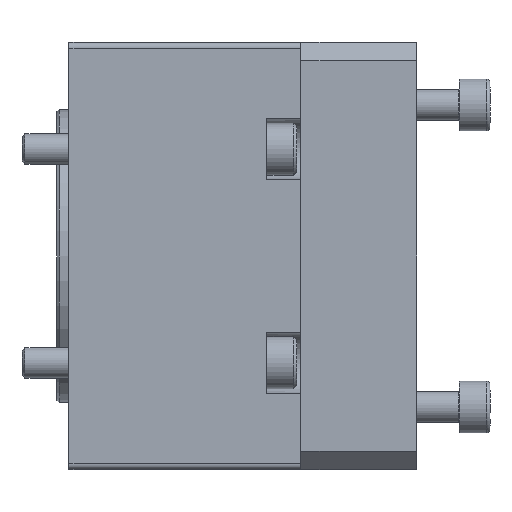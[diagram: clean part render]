
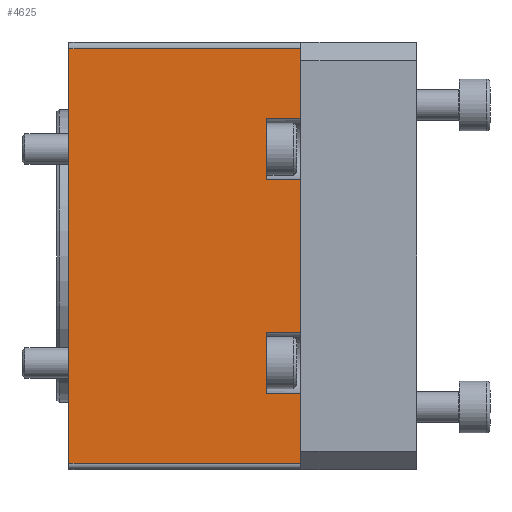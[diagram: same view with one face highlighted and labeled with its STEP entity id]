
A CAD part, front view. The second image highlights one B-rep face of the part: STEP entity #4625.
In plain terms, the highlighted planar face has unit normal (0, -1, 0) as drawn and (0, 1, 0) by its records, which use the part's own axes.
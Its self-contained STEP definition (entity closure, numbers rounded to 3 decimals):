
#766=FACE_OUTER_BOUND('',#1087,.T.);
#1087=EDGE_LOOP('',(#3367,#3368,#3369,#3370,#3371,#3372,#3373,#3374,#3375,
#3376,#3377,#3378));
#1457=LINE('',#7011,#1769);
#1459=LINE('',#7017,#1771);
#1465=LINE('',#7029,#1777);
#1467=LINE('',#7035,#1779);
#1477=LINE('',#7091,#1789);
#1480=LINE('',#7118,#1792);
#1481=LINE('',#7127,#1793);
#1484=LINE('',#7140,#1796);
#1492=LINE('',#7200,#1804);
#1496=LINE('',#7263,#1808);
#1497=LINE('',#7267,#1809);
#1498=LINE('',#7268,#1810);
#1769=VECTOR('',#5495,5.7);
#1771=VECTOR('',#5499,5.7);
#1777=VECTOR('',#5507,5.7);
#1779=VECTOR('',#5511,5.7);
#1789=VECTOR('',#5547,11.5);
#1792=VECTOR('',#5566,25.);
#1793=VECTOR('',#5577,11.5);
#1796=VECTOR('',#5590,10.);
#1804=VECTOR('',#5656,10.);
#1808=VECTOR('',#5738,38.);
#1809=VECTOR('',#5743,38.);
#1810=VECTOR('',#5744,68.);
#2078=VERTEX_POINT('',#7004);
#2081=VERTEX_POINT('',#7009);
#2083=VERTEX_POINT('',#7014);
#2084=VERTEX_POINT('',#7016);
#2086=VERTEX_POINT('',#7022);
#2089=VERTEX_POINT('',#7027);
#2091=VERTEX_POINT('',#7032);
#2092=VERTEX_POINT('',#7034);
#2105=VERTEX_POINT('',#7089);
#2114=VERTEX_POINT('',#7126);
#2152=VERTEX_POINT('',#7262);
#2153=VERTEX_POINT('',#7266);
#2539=EDGE_CURVE('',#2078,#2081,#1457,.T.);
#2541=EDGE_CURVE('',#2084,#2083,#1459,.T.);
#2547=EDGE_CURVE('',#2086,#2089,#1465,.T.);
#2549=EDGE_CURVE('',#2092,#2091,#1467,.T.);
#2570=EDGE_CURVE('',#2081,#2105,#1477,.T.);
#2580=EDGE_CURVE('',#2089,#2084,#1480,.T.);
#2585=EDGE_CURVE('',#2114,#2092,#1481,.T.);
#2592=EDGE_CURVE('',#2091,#2086,#1484,.T.);
#2615=EDGE_CURVE('',#2083,#2078,#1492,.T.);
#2636=EDGE_CURVE('',#2152,#2114,#1496,.T.);
#2638=EDGE_CURVE('',#2153,#2105,#1497,.T.);
#2639=EDGE_CURVE('',#2153,#2152,#1498,.T.);
#3367=ORIENTED_EDGE('',*,*,#2638,.F.);
#3368=ORIENTED_EDGE('',*,*,#2639,.T.);
#3369=ORIENTED_EDGE('',*,*,#2636,.T.);
#3370=ORIENTED_EDGE('',*,*,#2585,.T.);
#3371=ORIENTED_EDGE('',*,*,#2549,.T.);
#3372=ORIENTED_EDGE('',*,*,#2592,.T.);
#3373=ORIENTED_EDGE('',*,*,#2547,.T.);
#3374=ORIENTED_EDGE('',*,*,#2580,.T.);
#3375=ORIENTED_EDGE('',*,*,#2541,.T.);
#3376=ORIENTED_EDGE('',*,*,#2615,.T.);
#3377=ORIENTED_EDGE('',*,*,#2539,.T.);
#3378=ORIENTED_EDGE('',*,*,#2570,.T.);
#4448=PLANE('',#4978);
#4625=ADVANCED_FACE('',(#766),#4448,.T.);
#4978=AXIS2_PLACEMENT_3D('',#7265,#5741,#5742);
#5495=DIRECTION('',(0.,0.,1.));
#5499=DIRECTION('',(0.,0.,-1.));
#5507=DIRECTION('',(0.,0.,1.));
#5511=DIRECTION('',(0.,0.,-1.));
#5547=DIRECTION('',(1.,0.,0.));
#5566=DIRECTION('',(1.,0.,0.));
#5577=DIRECTION('',(1.,0.,0.));
#5590=DIRECTION('',(1.,0.,0.));
#5656=DIRECTION('',(1.,0.,0.));
#5738=DIRECTION('',(0.,0.,1.));
#5741=DIRECTION('center_axis',(0.,1.,0.));
#5742=DIRECTION('ref_axis',(0.,0.,1.));
#5743=DIRECTION('',(0.,0.,1.));
#5744=DIRECTION('',(-1.,0.,0.));
#7004=CARTESIAN_POINT('',(22.5,26.5,32.3));
#7009=CARTESIAN_POINT('',(22.5,26.5,38.));
#7011=CARTESIAN_POINT('',(22.5,26.5,19.));
#7014=CARTESIAN_POINT('',(12.5,26.5,32.3));
#7016=CARTESIAN_POINT('',(12.5,26.5,38.));
#7017=CARTESIAN_POINT('',(12.5,26.5,19.));
#7022=CARTESIAN_POINT('',(-12.5,26.5,32.3));
#7027=CARTESIAN_POINT('',(-12.5,26.5,38.));
#7029=CARTESIAN_POINT('',(-12.5,26.5,19.));
#7032=CARTESIAN_POINT('',(-22.5,26.5,32.3));
#7034=CARTESIAN_POINT('',(-22.5,26.5,38.));
#7035=CARTESIAN_POINT('',(-22.5,26.5,19.));
#7089=CARTESIAN_POINT('',(34.,26.5,38.));
#7091=CARTESIAN_POINT('',(34.,26.5,38.));
#7118=CARTESIAN_POINT('',(34.,26.5,38.));
#7126=CARTESIAN_POINT('',(-34.,26.5,38.));
#7127=CARTESIAN_POINT('',(34.,26.5,38.));
#7140=CARTESIAN_POINT('',(-17.,26.5,32.3));
#7200=CARTESIAN_POINT('',(-17.,26.5,32.3));
#7262=CARTESIAN_POINT('',(-34.,26.5,0.));
#7263=CARTESIAN_POINT('',(-34.,26.5,0.));
#7265=CARTESIAN_POINT('Origin',(-34.,26.5,0.));
#7266=CARTESIAN_POINT('',(34.,26.5,0.));
#7267=CARTESIAN_POINT('',(34.,26.5,0.));
#7268=CARTESIAN_POINT('',(34.,26.5,0.));
